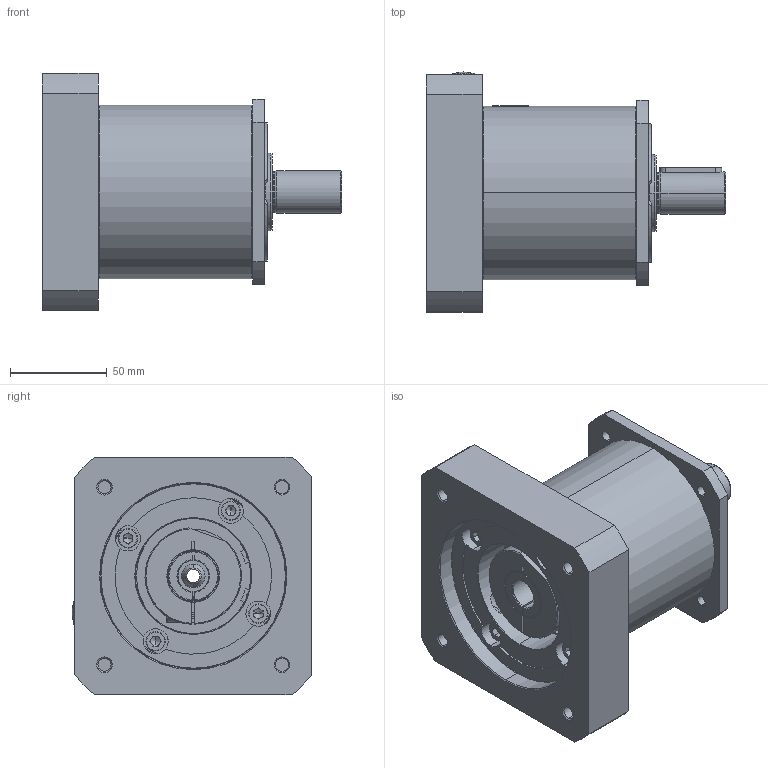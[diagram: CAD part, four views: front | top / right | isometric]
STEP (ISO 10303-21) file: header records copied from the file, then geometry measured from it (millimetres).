
FILE_DESCRIPTION (( 'STEP AP214' ), '1' );
FILE_NAME ('AL-034-0RR-FFF-MMM-S-LL-XXX-BXX-0000.STEP', '2019-10-23T15:37:49', ( '' ), ( '' ), 'SwSTEP 2.0', 'SolidWorks 2019', '' );
FILE_SCHEMA (( 'AUTOMOTIVE_DESIGN' ));
Length unit declared in the file: millimetre
Products named in the file (1): AL-034-0RR-FFF-MMM-S-LL-XXX-BXX-0000
Bounding box: 155 x 124.27 x 123 mm (x, y, z)
Surface area: 105376.7 mm2 (no closed solid volume)
Topology: 0 solids, 86 shells, 402 faces, 2289 edges, 1931 vertices
Faces by surface type: plane 195, cylinder 104, cone 63, torus 32, bspline 6, sphere 2
Entity records: 33776 total; most frequent: CARTESIAN_POINT 13072, ORIENTED_EDGE 2964, DIRECTION 2849, EDGE_CURVE 2273, VERTEX_POINT 1931, VECTOR 1141, LINE 1141, AXIS2_PLACEMENT_3D 854
